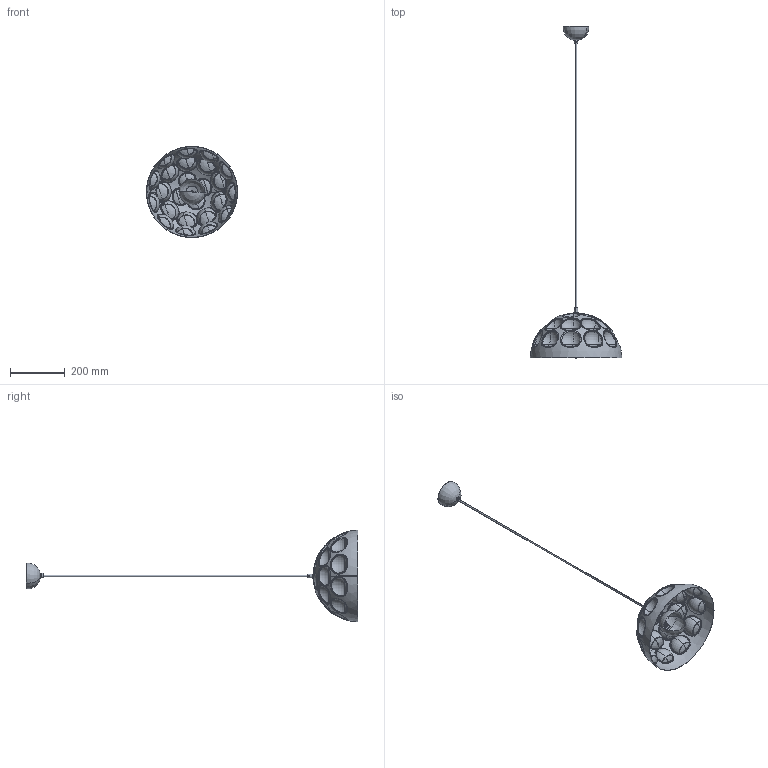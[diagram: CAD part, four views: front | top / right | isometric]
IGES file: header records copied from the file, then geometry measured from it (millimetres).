
Start section: SolidWorks IGES file using analytic representation for surfaces
Global section: file name: E:\3D lampy\Hemisphere\Hemisphere hit\Hemisphere hit_s.IGS; native system: SolidWorks 2016; preprocessor: SolidWorks 2016; author: Asia; date: 161027.150718; units: millimetre
Bounding box: 335 x 1216.77 x 335 mm (x, y, z)
Surface area: 499069.8 mm2 (no closed solid volume)
Topology: 0 solids, 0 shells, 522 faces, 10004 edges, 9959 vertices
Faces by surface type: bspline 320, revolution 202
